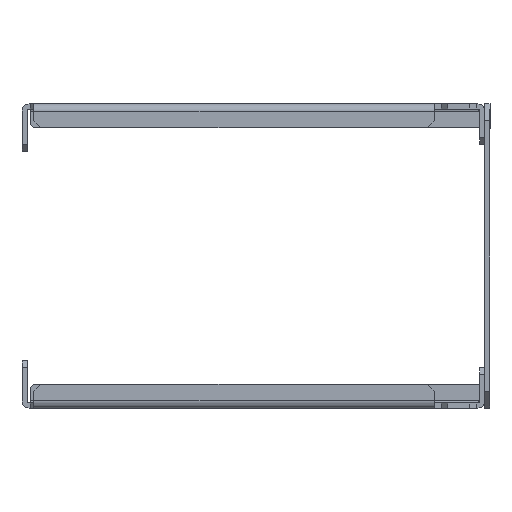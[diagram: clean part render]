
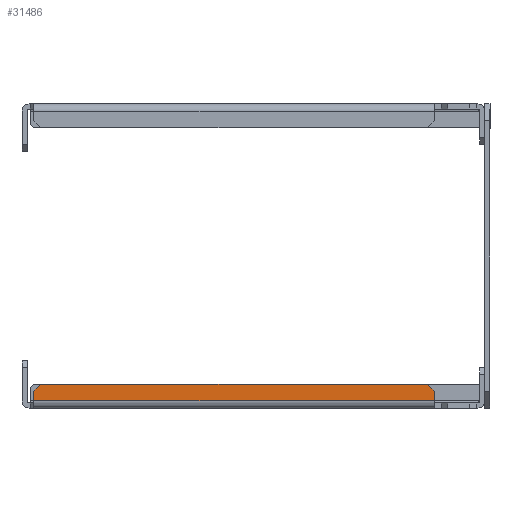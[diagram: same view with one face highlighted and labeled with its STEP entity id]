
A CAD part, left-side view. The second image highlights one B-rep face of the part: STEP entity #31486.
In plain terms, the highlighted planar face has unit normal (-1, 0, 0).
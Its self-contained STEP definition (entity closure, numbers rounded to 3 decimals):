
#14971=CARTESIAN_POINT(' ',(-95.5,65.,0.6));
#14972=VERTEX_POINT(' ',#14971);
#14986=CARTESIAN_POINT(' ',(-95.5,65.,3.5));
#14991=DIRECTION(' ',(0.,0.,-1.));
#14996=VECTOR(' ',#14991,1.);
#15001=LINE('',#14986,#14996);
#15006=CARTESIAN_POINT(' ',(-95.5,65.,3.5));
#15007=VERTEX_POINT(' ',#15006);
#15011=EDGE_CURVE(' ',#15007,#14972,#15001,.T.);
#15341=CARTESIAN_POINT(' ',(-95.5,-53.5,3.5));
#15342=VERTEX_POINT(' ',#15341);
#15356=CARTESIAN_POINT(' ',(-95.5,-53.5,0.6));
#15361=DIRECTION(' ',(0.,0.,1.));
#15366=VECTOR(' ',#15361,1.);
#15371=LINE('',#15356,#15366);
#15376=CARTESIAN_POINT(' ',(-95.5,-53.5,0.6));
#15377=VERTEX_POINT(' ',#15376);
#15381=EDGE_CURVE(' ',#15377,#15342,#15371,.T.);
#28811=CARTESIAN_POINT(' ',(-95.5,-53.5,0.6));
#28816=DIRECTION(' ',(0.,1.,0.));
#28821=VECTOR(' ',#28816,1.);
#28826=LINE('',#28811,#28821);
#28831=EDGE_CURVE(' ',#15377,#14972,#28826,.T.);
#31336=DIRECTION(' ',(-1.,-0.,0.));
#31341=CARTESIAN_POINT(' ',(-95.5,-53.5,5.5));
#31346=DIRECTION(' ',(-0.,1.,0.));
#31351=AXIS2_PLACEMENT_3D(' ',#31341,#31336,#31346);
#31356=PLANE('NONE',#31351);
#31361=ORIENTED_EDGE(' ',*,*,#15381,.T.);
#31366=CARTESIAN_POINT(' ',(-95.5,-53.5,3.5));
#31371=DIRECTION(' ',(0.,0.707,0.707));
#31376=VECTOR(' ',#31371,1.);
#31381=LINE('',#31366,#31376);
#31386=CARTESIAN_POINT(' ',(-95.5,-51.5,5.5));
#31387=VERTEX_POINT(' ',#31386);
#31391=EDGE_CURVE(' ',#15342,#31387,#31381,.T.);
#31396=ORIENTED_EDGE(' ',*,*,#31391,.T.);
#31401=CARTESIAN_POINT(' ',(-95.5,-51.5,5.5));
#31406=DIRECTION(' ',(0.,1.,0.));
#31411=VECTOR(' ',#31406,1.);
#31416=LINE('',#31401,#31411);
#31421=CARTESIAN_POINT(' ',(-95.5,63.,5.5));
#31422=VERTEX_POINT(' ',#31421);
#31426=EDGE_CURVE(' ',#31387,#31422,#31416,.T.);
#31431=ORIENTED_EDGE(' ',*,*,#31426,.T.);
#31436=CARTESIAN_POINT(' ',(-95.5,63.,5.5));
#31441=DIRECTION(' ',(0.,0.707,-0.707));
#31446=VECTOR(' ',#31441,1.);
#31451=LINE('',#31436,#31446);
#31456=EDGE_CURVE(' ',#31422,#15007,#31451,.T.);
#31461=ORIENTED_EDGE(' ',*,*,#31456,.T.);
#31466=ORIENTED_EDGE(' ',*,*,#15011,.T.);
#31471=ORIENTED_EDGE(' ',*,*,#28831,.F.);
#31476=EDGE_LOOP(' ',(#31361,#31396,#31431,#31461,#31466,#31471));
#31481=FACE_OUTER_BOUND(' ',#31476,.T.);
#31486=ADVANCED_FACE('NONE',(#31481),#31356,.T.);
